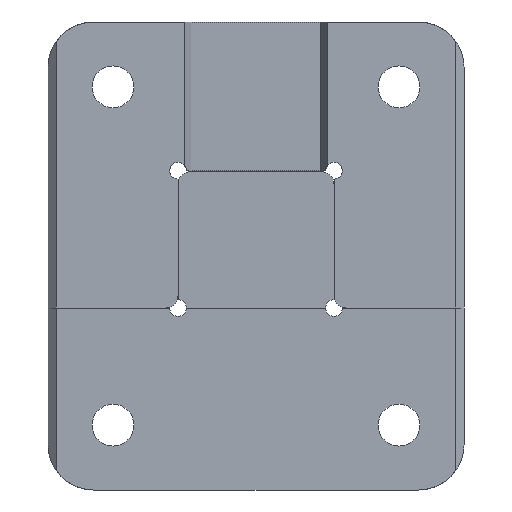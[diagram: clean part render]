
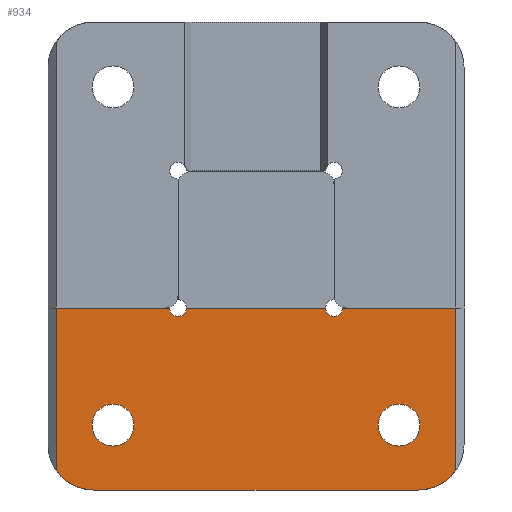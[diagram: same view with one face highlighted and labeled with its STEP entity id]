
A CAD part, front view. The second image highlights one B-rep face of the part: STEP entity #934.
In plain terms, the highlighted planar face has unit normal (0, -1, 0).
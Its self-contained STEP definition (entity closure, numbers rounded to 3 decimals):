
#40=PLANE('',#1024);
#73=CIRCLE('',#1010,1.016);
#79=CIRCLE('',#1022,1.016);
#81=CIRCLE('',#1025,2.553);
#82=CIRCLE('',#1026,2.553);
#83=CIRCLE('',#1027,5.563);
#84=CIRCLE('',#1028,5.563);
#145=ORIENTED_EDGE('',*,*,#399,.F.);
#146=ORIENTED_EDGE('',*,*,#400,.F.);
#147=ORIENTED_EDGE('',*,*,#401,.F.);
#148=ORIENTED_EDGE('',*,*,#402,.T.);
#149=ORIENTED_EDGE('',*,*,#403,.F.);
#150=ORIENTED_EDGE('',*,*,#396,.T.);
#151=ORIENTED_EDGE('',*,*,#404,.T.);
#152=ORIENTED_EDGE('',*,*,#378,.T.);
#153=ORIENTED_EDGE('',*,*,#405,.F.);
#154=ORIENTED_EDGE('',*,*,#406,.F.);
#155=ORIENTED_EDGE('',*,*,#407,.F.);
#156=ORIENTED_EDGE('',*,*,#408,.F.);
#378=EDGE_CURVE('',#503,#508,#73,.T.);
#396=EDGE_CURVE('',#521,#520,#79,.T.);
#399=EDGE_CURVE('',#523,#523,#81,.T.);
#400=EDGE_CURVE('',#524,#524,#82,.T.);
#401=EDGE_CURVE('',#525,#526,#83,.T.);
#402=EDGE_CURVE('',#525,#527,#611,.T.);
#403=EDGE_CURVE('',#521,#527,#612,.T.);
#404=EDGE_CURVE('',#520,#503,#613,.T.);
#405=EDGE_CURVE('',#528,#508,#614,.T.);
#406=EDGE_CURVE('',#529,#528,#615,.T.);
#407=EDGE_CURVE('',#530,#529,#84,.T.);
#408=EDGE_CURVE('',#526,#530,#616,.T.);
#503=VERTEX_POINT('',#1406);
#508=VERTEX_POINT('',#1415);
#520=VERTEX_POINT('',#1451);
#521=VERTEX_POINT('',#1453);
#523=VERTEX_POINT('',#1459);
#524=VERTEX_POINT('',#1461);
#525=VERTEX_POINT('',#1463);
#526=VERTEX_POINT('',#1464);
#527=VERTEX_POINT('',#1466);
#528=VERTEX_POINT('',#1470);
#529=VERTEX_POINT('',#1472);
#530=VERTEX_POINT('',#1474);
#611=LINE('',#1465,#693);
#612=LINE('',#1467,#694);
#613=LINE('',#1468,#695);
#614=LINE('',#1469,#696);
#615=LINE('',#1471,#697);
#616=LINE('',#1475,#698);
#693=VECTOR('',#1171,1000.);
#694=VECTOR('',#1172,1000.);
#695=VECTOR('',#1173,1000.);
#696=VECTOR('',#1174,1000.);
#697=VECTOR('',#1175,1000.);
#698=VECTOR('',#1178,1000.);
#766=EDGE_LOOP('',(#145));
#767=EDGE_LOOP('',(#146));
#768=EDGE_LOOP('',(#147,#148,#149,#150,#151,#152,#153,#154,#155,#156));
#840=FACE_BOUND('',#766,.T.);
#841=FACE_BOUND('',#767,.T.);
#842=FACE_BOUND('',#768,.T.);
#934=ADVANCED_FACE('',(#840,#841,#842),#40,.F.);
#1010=AXIS2_PLACEMENT_3D('',#1416,#1122,#1123);
#1022=AXIS2_PLACEMENT_3D('',#1452,#1158,#1159);
#1024=AXIS2_PLACEMENT_3D('',#1457,#1163,#1164);
#1025=AXIS2_PLACEMENT_3D('',#1458,#1165,#1166);
#1026=AXIS2_PLACEMENT_3D('',#1460,#1167,#1168);
#1027=AXIS2_PLACEMENT_3D('',#1462,#1169,#1170);
#1028=AXIS2_PLACEMENT_3D('',#1473,#1176,#1177);
#1122=DIRECTION('',(0.,1.,0.));
#1123=DIRECTION('',(1.,0.,0.));
#1158=DIRECTION('',(0.,1.,0.));
#1159=DIRECTION('',(1.,0.,0.));
#1163=DIRECTION('',(0.,1.,0.));
#1164=DIRECTION('',(0.,0.,1.));
#1165=DIRECTION('',(0.,-1.,0.));
#1166=DIRECTION('',(0.,0.,-1.));
#1167=DIRECTION('',(0.,-1.,0.));
#1168=DIRECTION('',(0.,0.,-1.));
#1169=DIRECTION('',(0.,1.,0.));
#1170=DIRECTION('',(1.,0.,0.));
#1171=DIRECTION('',(0.,0.,1.));
#1172=DIRECTION('',(1.,0.,0.));
#1173=DIRECTION('',(-1.,0.,0.));
#1174=DIRECTION('',(1.,0.,0.));
#1175=DIRECTION('',(0.,0.,1.));
#1176=DIRECTION('',(0.,1.,0.));
#1177=DIRECTION('',(1.,0.,0.));
#1178=DIRECTION('',(-1.,0.,0.));
#1406=CARTESIAN_POINT('',(-8.509,0.,0.));
#1415=CARTESIAN_POINT('',(-10.541,0.,0.));
#1416=CARTESIAN_POINT('',(-9.525,0.,0.));
#1451=CARTESIAN_POINT('',(8.509,0.,0.));
#1452=CARTESIAN_POINT('',(9.525,0.,0.));
#1453=CARTESIAN_POINT('',(10.541,0.,0.));
#1457=CARTESIAN_POINT('',(-19.837,0.,-16.662));
#1458=CARTESIAN_POINT('',(-17.463,0.,-14.3));
#1459=CARTESIAN_POINT('',(-17.463,0.,-16.853));
#1460=CARTESIAN_POINT('',(17.463,0.,-14.3));
#1461=CARTESIAN_POINT('',(17.463,0.,-16.853));
#1462=CARTESIAN_POINT('',(19.837,0.,-16.662));
#1463=CARTESIAN_POINT('',(24.384,0.,-19.867));
#1464=CARTESIAN_POINT('',(19.837,0.,-22.225));
#1465=CARTESIAN_POINT('',(24.384,0.,-22.225));
#1466=CARTESIAN_POINT('',(24.384,0.,0.));
#1467=CARTESIAN_POINT('',(10.541,0.,0.));
#1468=CARTESIAN_POINT('',(9.525,0.,0.));
#1469=CARTESIAN_POINT('',(-25.4,0.,0.));
#1470=CARTESIAN_POINT('',(-24.384,0.,0.));
#1471=CARTESIAN_POINT('',(-24.384,0.,-22.225));
#1472=CARTESIAN_POINT('',(-24.384,0.,-19.867));
#1473=CARTESIAN_POINT('',(-19.837,0.,-16.662));
#1474=CARTESIAN_POINT('',(-19.837,0.,-22.225));
#1475=CARTESIAN_POINT('',(19.837,0.,-22.225));
